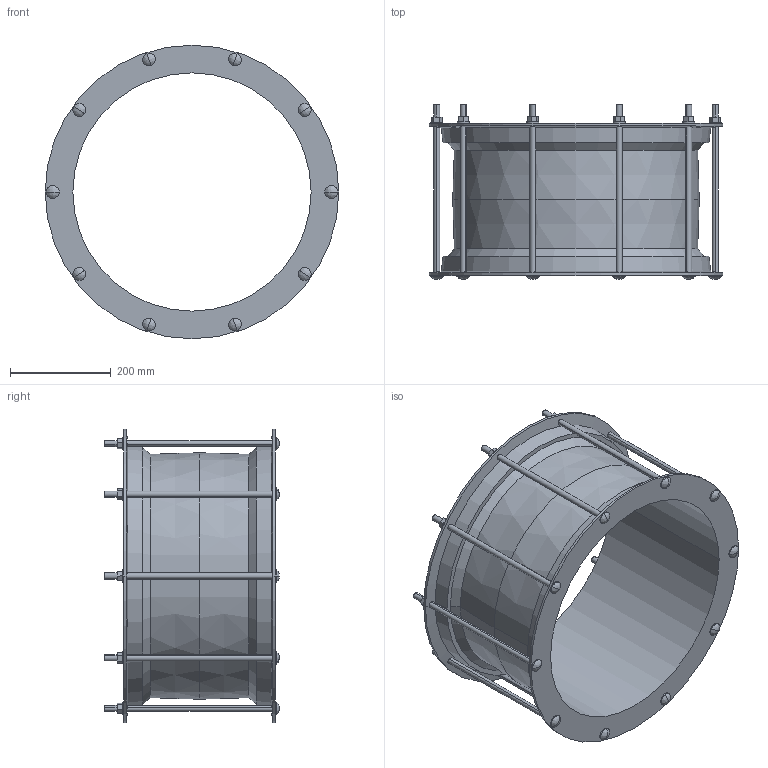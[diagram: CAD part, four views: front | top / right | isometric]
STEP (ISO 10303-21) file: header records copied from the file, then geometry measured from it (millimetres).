
FILE_DESCRIPTION((''),'2;1');
FILE_NAME('MAXIFIT_455_472','2018-12-18T',('mfairey'),('Glynwed Pipe Systems'),'CREO PARAMETRIC BY PTC INC, 2016130','CREO PARAMETRIC BY PTC INC, 2016130','');
FILE_SCHEMA(('CONFIG_CONTROL_DESIGN'));
Length unit declared in the file: millimetre
Products named in the file (1): MAXIFIT_455_472
Bounding box: 584 x 348 x 584 mm (x, y, z)
Volume: 7026994.2 mm3; surface area: 1356982.6 mm2
Topology: 1 solids, 1 shells, 216 faces, 524 edges, 328 vertices
Faces by surface type: plane 94, cylinder 86, bspline 20, cone 16
Entity records: 7706 total; most frequent: CARTESIAN_POINT 2682, DIRECTION 1018, ORIENTED_EDGE 1008, EDGE_CURVE 504, AXIS2_PLACEMENT_3D 366, VERTEX_POINT 328, VECTOR 286, LINE 286
